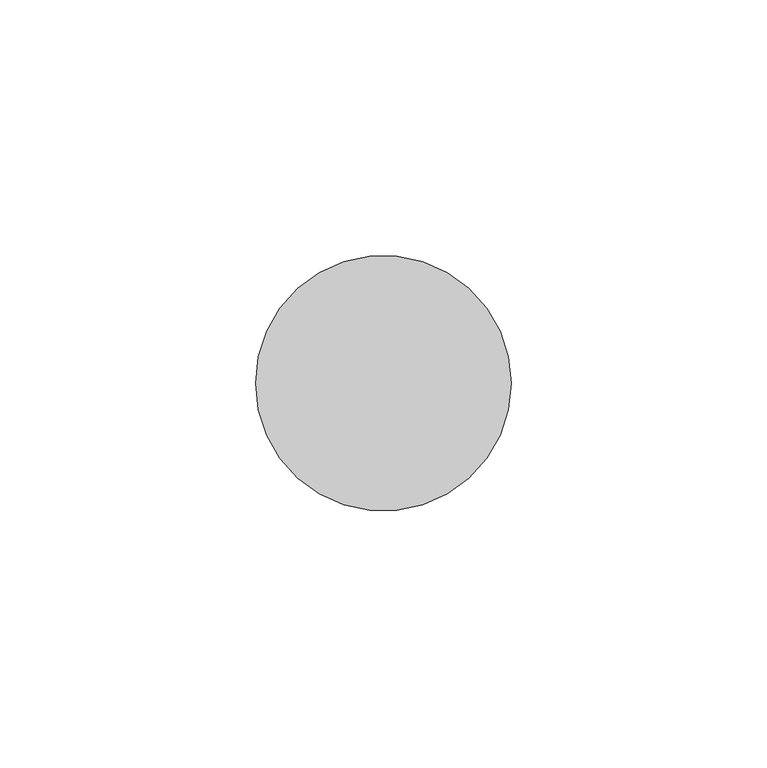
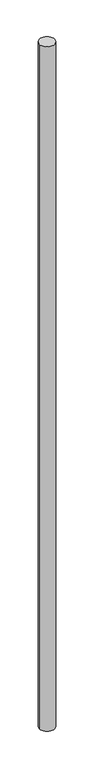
"""IFC4 building model written with IfcOpenShell, lengths in millimetres: member geometry, 圓形豎框 : 25mm 半徑."""

from ifc_helpers import new_model, si_unit, point, frame, origin, origin_2d, place, context, project, spatial, circle_curve, trimmed, segment, composite_curve, outline, extrude, source, transform, mapped, element, save


def member_0fbff286(model_context):
    return source(origin(), model_context, "Body", "SweptSolid", [
        extrude(outline(composite_curve([segment(trimmed(circle_curve(origin_2d(), 25.0), [point((25.0, 0.0))], [point((-25.0, 0.0))], False, "CARTESIAN"), True, "CONTINUOUS"), segment(trimmed(circle_curve(origin_2d(), 25.0), [point((-25.0, 0.0))], [point((25.0, 0.0))], False, "CARTESIAN"), True, "CONTINUOUS")], self_intersect=False)), frame((0.0, 0.0, -2361.8542956), z_axis=(0.0, 0.0, 1.0), x_axis=(1.0, 0.0, 0.0)), (0.0, 0.0, 1.0), 2361.8542956),
    ])


if __name__ == "__main__":
    model = new_model("IFC4")
    model_context = context("Model", 3, world=origin())
    ifc_project = project(units=[si_unit("LENGTHUNIT", "METRE", prefix="MILLI")], contexts=[model_context])
    site = spatial("IfcSite", under=ifc_project)
    building = spatial("IfcBuilding", under=site)
    placement = place(None, origin())
    member_shape = member_0fbff286(model_context)
    element("IfcMember", 1, ObjectType="圓形豎框 : 25mm 半徑", at=placement, inside=building, context=model_context, shape_type="MappedRepresentation", body=[
        mapped(member_shape, transform((0.0, 0.0, 0.0), x_axis=(1.0, 0.0, 0.0), y_axis=(0.0, 1.0, 0.0), z_axis=(0.0, 0.0, 1.0))),
    ])
    save(model, "model.ifc")
